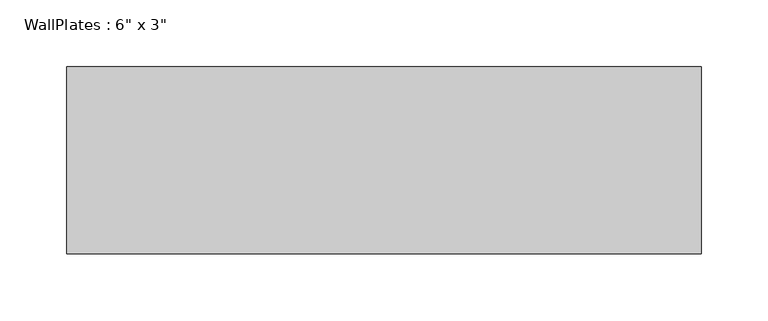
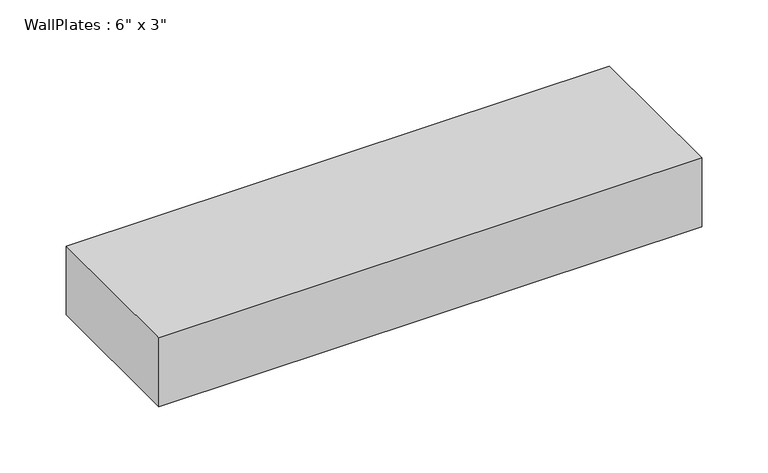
"""IFC4 building model written with IfcOpenShell, lengths in millimetres: beam geometry."""

from ifc_helpers import new_model, si_unit, frame, origin, place, context, project, spatial, polyline, outline, extrude, source, transform, mapped, element, save


def beam_ae29647c(model_context):
    return source(origin(), model_context, "Body", "SweptSolid", [
        extrude(outline(polyline([(-237.0616667, -69.85), (-237.0616667, 69.85), (237.0616667, 69.85), (237.0616667, -69.85), (-237.0616667, -69.85)])), frame((0.0, 0.0, -31.75), z_axis=(0.0, 0.0, 1.0), x_axis=(1.0, 0.0, 0.0)), (0.0, 0.0, 1.0), 63.5),
    ])


if __name__ == "__main__":
    model = new_model("IFC4")
    model_context = context("Model", 3, world=origin())
    ifc_project = project(units=[si_unit("LENGTHUNIT", "METRE", prefix="MILLI")], contexts=[model_context])
    site = spatial("IfcSite", under=ifc_project)
    building = spatial("IfcBuilding", under=site)
    placement = place(None, origin())
    beam_shape = beam_ae29647c(model_context)
    element("IfcBeam", 1, ObjectType="WallPlates : 6\" x 3\"", at=placement, inside=building, context=model_context, shape_type="MappedRepresentation", body=[
        mapped(beam_shape, transform((0.0, 0.0, 0.0), x_axis=(1.0, 0.0, 0.0), y_axis=(0.0, 1.0, 0.0), z_axis=(0.0, 0.0, 1.0))),
    ])
    save(model, "model.ifc")
